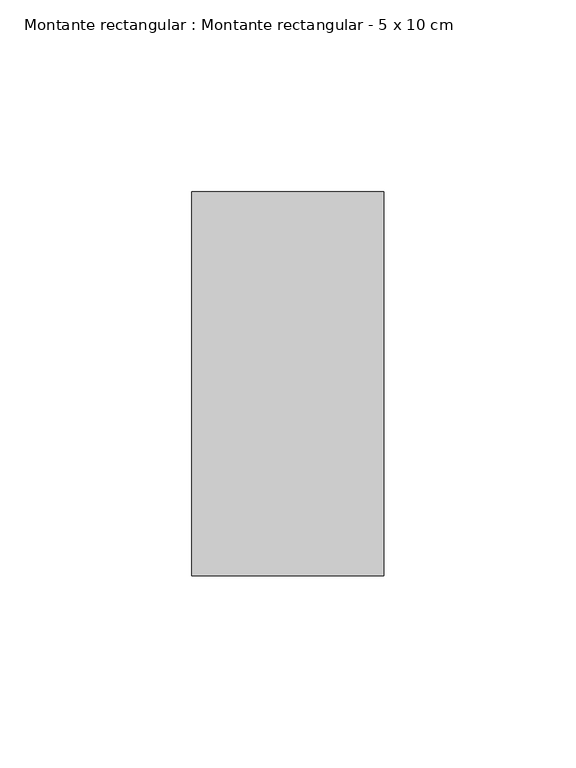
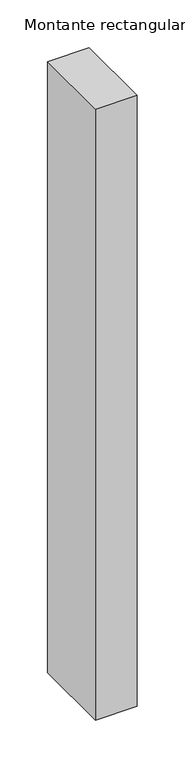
"""IFC4 building model written with IfcOpenShell, lengths in millimetres: member geometry, Montante rectangular : Montante rectangular - 5 x 10 cm."""

from ifc_helpers import new_model, si_unit, frame, origin, place, context, project, spatial, polyline, outline, extrude, source, transform, mapped, element, save


def montante_rectangular_montante_rectangular_5_x_10_cm_70bbbbd1(model_context):
    return source(origin(), model_context, "Body", "SweptSolid", [
        extrude(outline(polyline([(25.0, 50.0), (25.0, -50.0), (-25.0, -50.0), (-25.0, 50.0), (25.0, 50.0)])), frame((0.0, 0.0, -778.8396072), z_axis=(0.0, 0.0, 1.0), x_axis=(1.0, 0.0, 0.0)), (0.0, 0.0, 1.0), 778.8396072),
    ])


if __name__ == "__main__":
    model = new_model("IFC4")
    model_context = context("Model", 3, world=origin())
    ifc_project = project(units=[si_unit("LENGTHUNIT", "METRE", prefix="MILLI")], contexts=[model_context])
    site = spatial("IfcSite", under=ifc_project)
    building = spatial("IfcBuilding", under=site)
    placement = place(None, origin())
    montante_rectangular_montante_rectangular_5_x_10_cm_shape = montante_rectangular_montante_rectangular_5_x_10_cm_70bbbbd1(model_context)
    element("IfcMember", 1, ObjectType="Montante rectangular : Montante rectangular - 5 x 10 cm", at=placement, inside=building, context=model_context, shape_type="MappedRepresentation", body=[
        mapped(montante_rectangular_montante_rectangular_5_x_10_cm_shape, transform((0.0, 0.0, 0.0), x_axis=(1.0, 0.0, 0.0), y_axis=(0.0, 1.0, 0.0), z_axis=(0.0, 0.0, 1.0))),
    ])
    save(model, "model.ifc")
